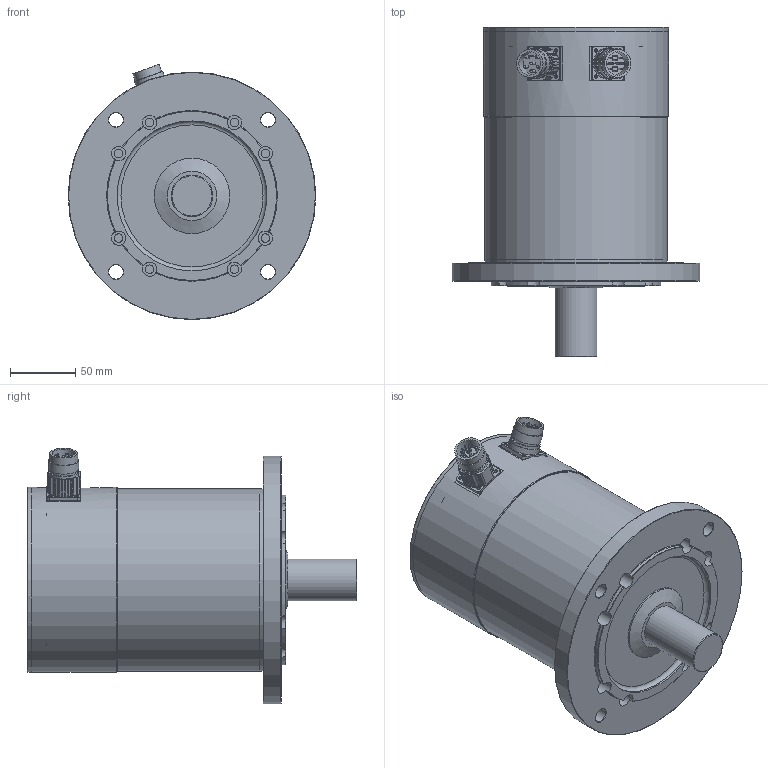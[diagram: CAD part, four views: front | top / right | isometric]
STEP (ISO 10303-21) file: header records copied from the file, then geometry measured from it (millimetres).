
FILE_DESCRIPTION(/* description */ (''),/* implementation_level */ '2;1');
FILE_NAME(/* name */ 'ksy_568e_r4',/* time_stamp */ '2007-03-19T08:44:20+01:00',/* author */ (''),/* organization */ (''),/* preprocessor_version */ 'ST-DEVELOPER v8',/* originating_system */ 'UNIGRAPHICS SOLUTIONS - UNIGRAPHICS 18.0',/* authorisation */ '');
FILE_SCHEMA (('AUTOMOTIVE_DESIGN { 1 2 10303 214 0 1 1 1 }'));
Length unit declared in the file: millimetre
Products named in the file (10): 064267_0; 014261_0; 014260_0; 06333701_0; DIN3760_org_A35x52x7_0; Rotor_SY 56.. E_0; 115116_0; Gehaeuse_SY 56.. E_0; 115115_0; KSY564_E-R4_0
Assembly tree (9 placements, depth 2):
  KSY564_E-R4_0
    115115_0
    Gehaeuse_SY 56.. E_0
    115116_0
    Rotor_SY 56.. E_0
    DIN3760_org_A35x52x7_0
    06333701_0
    014260_0
    014261_0
    064267_0
Bounding box: 190 x 253 x 195.93 mm (x, y, z)
Volume: 1793717.5 mm3; surface area: 347216.8 mm2
Topology: 9 solids, 9 shells, 421 faces, 1055 edges, 679 vertices
Faces by surface type: cylinder 210, plane 100, cone 66, torus 25, sphere 20
Full cylindrical faces by diameter (mm): 1 x16, 2 x4, 2.135 x8, 2.7 x8, 3.013 x7, 4.5 x7, 5.5 x4, 6.6 x8, 8 x7, 10 x4, 11 x13, 18 x2, 20 x4, 21 x2, 21.5 x2, 23 x4, 24 x1, 30.5 x1, 31.52 x1, 31.95 x1, 32 x1, 35 x2, 35.3 x1, 36.83 x1, 40 x1, 49 x1, 52 x2, 53 x1, 54 x1, 58 x1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
Entity records: 11214 total; most frequent: CARTESIAN_POINT 2066, DIRECTION 2027, ORIENTED_EDGE 1370, AXIS2_PLACEMENT_3D 950, EDGE_LOOP 783, EDGE_CURVE 685, VERTEX_POINT 575, FACE_BOUND 530
